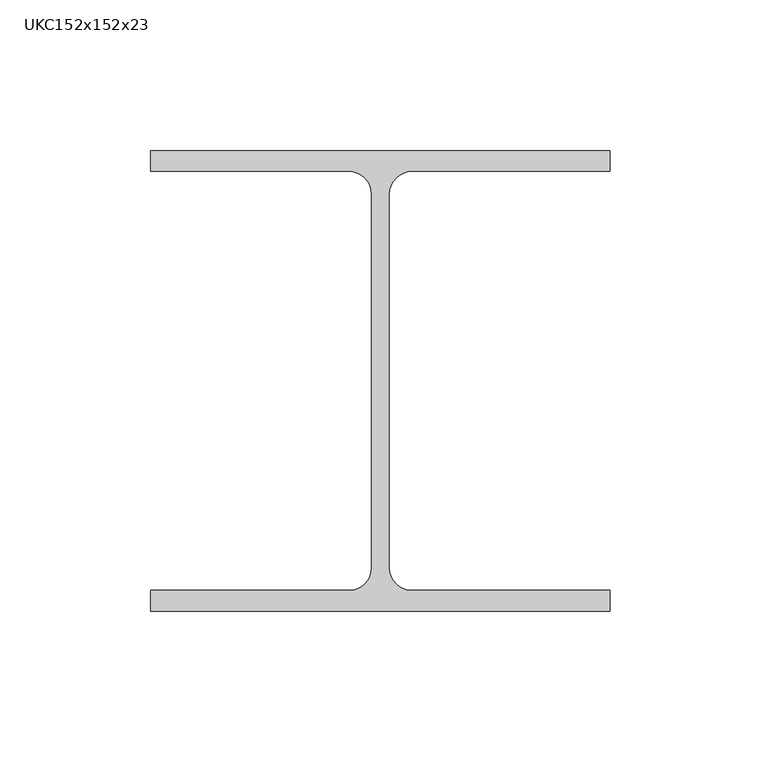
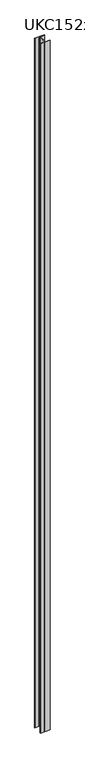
"""IFC4 building model written with IfcOpenShell, lengths in millimetres: column geometry, UKC-UK Columns-Column : UKC152x152x23."""

from ifc_helpers import new_model, si_unit, point, frame, frame_2d, origin, place, context, project, spatial, polyline, circle_curve, trimmed, segment, composite_curve, outline, extrude, source, transform, mapped, element, save


def ukc152x152x23_eef55d6c(model_context):
    return source(origin(), model_context, "Body", "SweptSolid", [
        extrude(outline(composite_curve([segment(polyline([(76.1, 76.2), (76.1, 69.4), (10.5, 69.4)]), True, "CONTINUOUS"), segment(trimmed(circle_curve(frame_2d((10.5, 61.8)), 7.6), [point((10.5, 69.4))], [point((2.9, 61.8))], True, "CARTESIAN"), True, "CONTINUOUS"), segment(polyline([(2.9, 61.8), (2.9, -61.8)]), True, "CONTINUOUS"), segment(trimmed(circle_curve(frame_2d((10.5, -61.8)), 7.6), [point((2.9, -61.8))], [point((10.5, -69.4))], True, "CARTESIAN"), True, "CONTINUOUS"), segment(polyline([(10.5, -69.4), (76.1, -69.4), (76.1, -76.2), (-76.1, -76.2), (-76.1, -69.4), (-10.5, -69.4)]), True, "CONTINUOUS"), segment(trimmed(circle_curve(frame_2d((-10.5, -61.8)), 7.6), [point((-10.5, -69.4))], [point((-2.9, -61.8))], True, "CARTESIAN"), True, "CONTINUOUS"), segment(polyline([(-2.9, -61.8), (-2.9, 61.8)]), True, "CONTINUOUS"), segment(trimmed(circle_curve(frame_2d((-10.5, 61.8)), 7.6), [point((-2.9, 61.8))], [point((-10.5, 69.4))], True, "CARTESIAN"), True, "CONTINUOUS"), segment(polyline([(-10.5, 69.4), (-76.1, 69.4), (-76.1, 76.2), (76.1, 76.2)]), True, "CONTINUOUS")], self_intersect=False)), frame((0.0, 0.0, -450.0), z_axis=(0.0, 0.0, 1.0), x_axis=(1.0, 0.0, 0.0)), (0.0, 0.0, 1.0), 11450.0),
    ])


if __name__ == "__main__":
    model = new_model("IFC4")
    model_context = context("Model", 3, world=origin())
    ifc_project = project(units=[si_unit("LENGTHUNIT", "METRE", prefix="MILLI")], contexts=[model_context])
    site = spatial("IfcSite", under=ifc_project)
    building = spatial("IfcBuilding", under=site)
    placement = place(None, origin())
    ukc152x152x23_shape = ukc152x152x23_eef55d6c(model_context)
    element("IfcColumn", 1, ObjectType="UKC-UK Columns-Column : UKC152x152x23", at=placement, inside=building, context=model_context, shape_type="MappedRepresentation", body=[
        mapped(ukc152x152x23_shape, transform((0.0, 0.0, 0.0), x_axis=(1.0, 0.0, 0.0), y_axis=(0.0, 1.0, 0.0), z_axis=(0.0, 0.0, 1.0))),
    ])
    save(model, "model.ifc")
